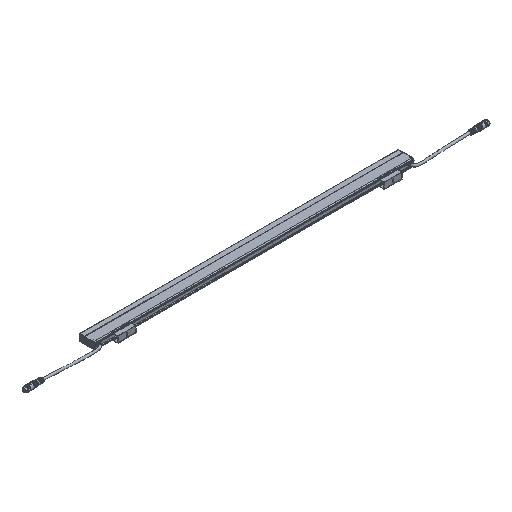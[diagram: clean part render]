
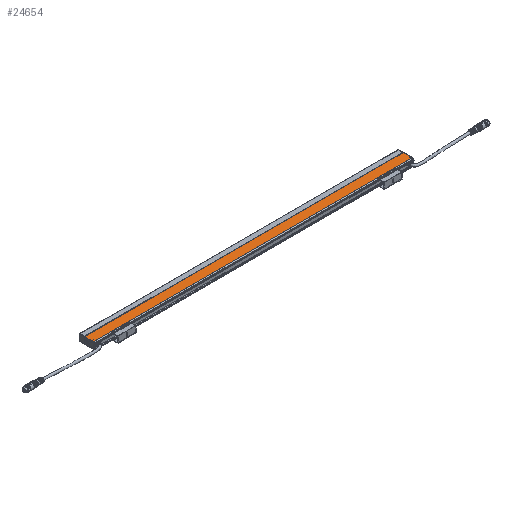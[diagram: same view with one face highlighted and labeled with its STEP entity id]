
A CAD part, isometric view. The second image highlights one B-rep face of the part: STEP entity #24654.
In plain terms, the highlighted planar face has unit normal (0, 0, 1).
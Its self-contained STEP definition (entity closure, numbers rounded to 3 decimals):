
#921 = ORIENTED_EDGE ( 'NONE', *, *, #34362, .T. ) ;
#1994 = LINE ( 'NONE', #19042, #9546 ) ;
#2243 = DIRECTION ( 'NONE',  ( 0., 1., 0. ) ) ;
#3403 = DIRECTION ( 'NONE',  ( 0., 1., 0. ) ) ;
#3820 = DIRECTION ( 'NONE',  ( 0., -1., 0. ) ) ;
#5066 = VECTOR ( 'NONE', #26987, 1000. ) ;
#5569 = VECTOR ( 'NONE', #11231, 1000. ) ;
#6337 = DIRECTION ( 'NONE',  ( -1., 0., 0. ) ) ;
#6896 = EDGE_CURVE ( 'NONE', #52000, #35349, #24325, .T. ) ;
#7482 = VECTOR ( 'NONE', #3820, 1000. ) ;
#8350 = FACE_OUTER_BOUND ( 'NONE', #11187, .T. ) ;
#8670 = VERTEX_POINT ( 'NONE', #17705 ) ;
#9194 = VECTOR ( 'NONE', #6337, 1000. ) ;
#9546 = VECTOR ( 'NONE', #19629, 1000. ) ;
#10083 = AXIS2_PLACEMENT_3D ( 'NONE', #43147, #52569, #3403 ) ;
#10215 = CARTESIAN_POINT ( 'NONE',  ( -448., 59.492, 9.15 ) ) ;
#10250 = VECTOR ( 'NONE', #32439, 1000. ) ;
#10937 = LINE ( 'NONE', #20738, #50299 ) ;
#10969 = VERTEX_POINT ( 'NONE', #55414 ) ;
#11187 = EDGE_LOOP ( 'NONE', ( #40697, #49395, #921, #52876, #20393, #52600, #46879, #49030, #45380, #33744 ) ) ;
#11231 = DIRECTION ( 'NONE',  ( 0., 1., 0. ) ) ;
#11334 = LINE ( 'NONE', #34596, #28132 ) ;
#12169 = EDGE_CURVE ( 'NONE', #43085, #19868, #11334, .T. ) ;
#13021 = EDGE_CURVE ( 'NONE', #43085, #43188, #16839, .T. ) ;
#13884 = LINE ( 'NONE', #41834, #10250 ) ;
#15125 = EDGE_CURVE ( 'NONE', #8670, #18827, #30017, .T. ) ;
#15970 = DIRECTION ( 'NONE',  ( 0., -1., 0. ) ) ;
#16839 = LINE ( 'NONE', #34802, #5569 ) ;
#17705 = CARTESIAN_POINT ( 'NONE',  ( 448., 59.492, 9.15 ) ) ;
#18827 = VERTEX_POINT ( 'NONE', #24738 ) ;
#19029 = CARTESIAN_POINT ( 'NONE',  ( -448., 45.5, 9.15 ) ) ;
#19042 = CARTESIAN_POINT ( 'NONE',  ( -448., 45.5, 9.15 ) ) ;
#19079 = VERTEX_POINT ( 'NONE', #50016 ) ;
#19629 = DIRECTION ( 'NONE',  ( 1., 0., 0. ) ) ;
#19868 = VERTEX_POINT ( 'NONE', #40537 ) ;
#19939 = EDGE_CURVE ( 'NONE', #10969, #18827, #1994, .T. ) ;
#20393 = ORIENTED_EDGE ( 'NONE', *, *, #12169, .F. ) ;
#20738 = CARTESIAN_POINT ( 'NONE',  ( -449.5, 0., 9.15 ) ) ;
#21080 = DIRECTION ( 'NONE',  ( -1., 0., 0. ) ) ;
#24325 = LINE ( 'NONE', #55519, #9194 ) ;
#24654 = ADVANCED_FACE ( 'NONE', ( #8350 ), #57256, .F. ) ;
#24738 = CARTESIAN_POINT ( 'NONE',  ( 448., 45.5, 9.15 ) ) ;
#25381 = EDGE_CURVE ( 'NONE', #52000, #10969, #54057, .T. ) ;
#26987 = DIRECTION ( 'NONE',  ( 0., -1., 0. ) ) ;
#28132 = VECTOR ( 'NONE', #21080, 1000. ) ;
#30017 = LINE ( 'NONE', #43845, #7482 ) ;
#31445 = EDGE_CURVE ( 'NONE', #39236, #8670, #13884, .T. ) ;
#32439 = DIRECTION ( 'NONE',  ( -1., 0., 0. ) ) ;
#32564 = LINE ( 'NONE', #42548, #55995 ) ;
#33744 = ORIENTED_EDGE ( 'NONE', *, *, #19939, .F. ) ;
#34362 = EDGE_CURVE ( 'NONE', #35349, #19079, #47478, .T. ) ;
#34596 = CARTESIAN_POINT ( 'NONE',  ( 448., 20.786, 9.15 ) ) ;
#34802 = CARTESIAN_POINT ( 'NONE',  ( 449.5, 50.842, 9.15 ) ) ;
#35123 = CARTESIAN_POINT ( 'NONE',  ( 449.5, 50.842, 9.15 ) ) ;
#35349 = VERTEX_POINT ( 'NONE', #41241 ) ;
#39236 = VERTEX_POINT ( 'NONE', #40516 ) ;
#40516 = CARTESIAN_POINT ( 'NONE',  ( 449.5, 59.492, 9.15 ) ) ;
#40537 = CARTESIAN_POINT ( 'NONE',  ( -449.5, 20.786, 9.15 ) ) ;
#40645 = VECTOR ( 'NONE', #56614, 1000. ) ;
#40697 = ORIENTED_EDGE ( 'NONE', *, *, #25381, .F. ) ;
#41241 = CARTESIAN_POINT ( 'NONE',  ( -449.5, 59.492, 9.15 ) ) ;
#41775 = EDGE_CURVE ( 'NONE', #43188, #39236, #32564, .T. ) ;
#41834 = CARTESIAN_POINT ( 'NONE',  ( 448., 59.492, 9.15 ) ) ;
#42548 = CARTESIAN_POINT ( 'NONE',  ( 449.5, 59.992, 9.15 ) ) ;
#43085 = VERTEX_POINT ( 'NONE', #46635 ) ;
#43147 = CARTESIAN_POINT ( 'NONE',  ( 448., 0., 9.15 ) ) ;
#43188 = VERTEX_POINT ( 'NONE', #35123 ) ;
#43845 = CARTESIAN_POINT ( 'NONE',  ( 448., 45.5, 9.15 ) ) ;
#45380 = ORIENTED_EDGE ( 'NONE', *, *, #15125, .T. ) ;
#46635 = CARTESIAN_POINT ( 'NONE',  ( 449.5, 20.786, 9.15 ) ) ;
#46879 = ORIENTED_EDGE ( 'NONE', *, *, #41775, .T. ) ;
#47478 = LINE ( 'NONE', #57168, #40645 ) ;
#49030 = ORIENTED_EDGE ( 'NONE', *, *, #31445, .T. ) ;
#49395 = ORIENTED_EDGE ( 'NONE', *, *, #6896, .T. ) ;
#49447 = EDGE_CURVE ( 'NONE', #19079, #19868, #10937, .T. ) ;
#50016 = CARTESIAN_POINT ( 'NONE',  ( -449.5, 50.842, 9.15 ) ) ;
#50299 = VECTOR ( 'NONE', #15970, 1000. ) ;
#52000 = VERTEX_POINT ( 'NONE', #10215 ) ;
#52569 = DIRECTION ( 'NONE',  ( 0., 0., -1. ) ) ;
#52600 = ORIENTED_EDGE ( 'NONE', *, *, #13021, .T. ) ;
#52876 = ORIENTED_EDGE ( 'NONE', *, *, #49447, .T. ) ;
#54057 = LINE ( 'NONE', #19029, #5066 ) ;
#55414 = CARTESIAN_POINT ( 'NONE',  ( -448., 45.5, 9.15 ) ) ;
#55519 = CARTESIAN_POINT ( 'NONE',  ( 448., 59.492, 9.15 ) ) ;
#55995 = VECTOR ( 'NONE', #2243, 1000. ) ;
#56614 = DIRECTION ( 'NONE',  ( 0., -1., 0. ) ) ;
#57168 = CARTESIAN_POINT ( 'NONE',  ( -449.5, 0., 9.15 ) ) ;
#57256 = PLANE ( 'NONE',  #10083 ) ;
